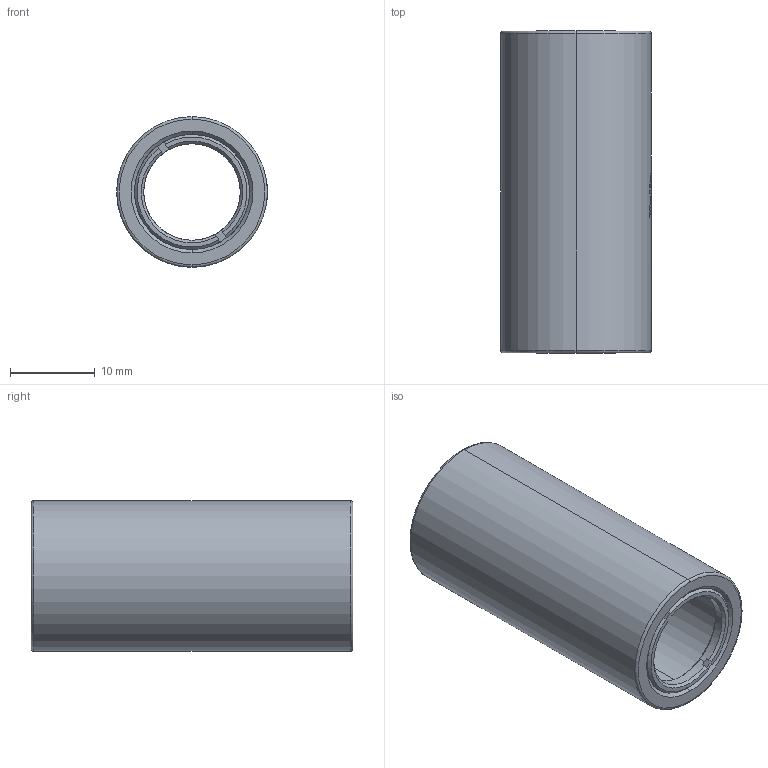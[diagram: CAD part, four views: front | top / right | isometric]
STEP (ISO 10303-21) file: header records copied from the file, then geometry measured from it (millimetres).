
FILE_DESCRIPTION (( 'STEP AP203' ), '1' );
FILE_NAME ('CSSM05-38B.STEP', '2025-08-29T02:24:28', ( '' ), ( '' ), 'SwSTEP 2.0', 'SolidWorks 2020', '' );
FILE_SCHEMA (( 'CONFIG_CONTROL_DESIGN' ));
Length unit declared in the file: millimetre
Products named in the file (1): CSSM05-38B
Bounding box: 17.8 x 38 x 17.8 mm (x, y, z)
Volume: 4064.5 mm3; surface area: 4307.8 mm2
Topology: 3 solids, 3 shells, 386 faces, 1055 edges, 698 vertices
Faces by surface type: bspline 257, plane 68, cylinder 37, cone 20, torus 4
Entity records: 23610 total; most frequent: CARTESIAN_POINT 16041, ORIENTED_EDGE 2110, EDGE_CURVE 1055, B_SPLINE_CURVE_WITH_KNOTS 818, VERTEX_POINT 698, DIRECTION 597, EDGE_LOOP 415, FACE_OUTER_BOUND 386
